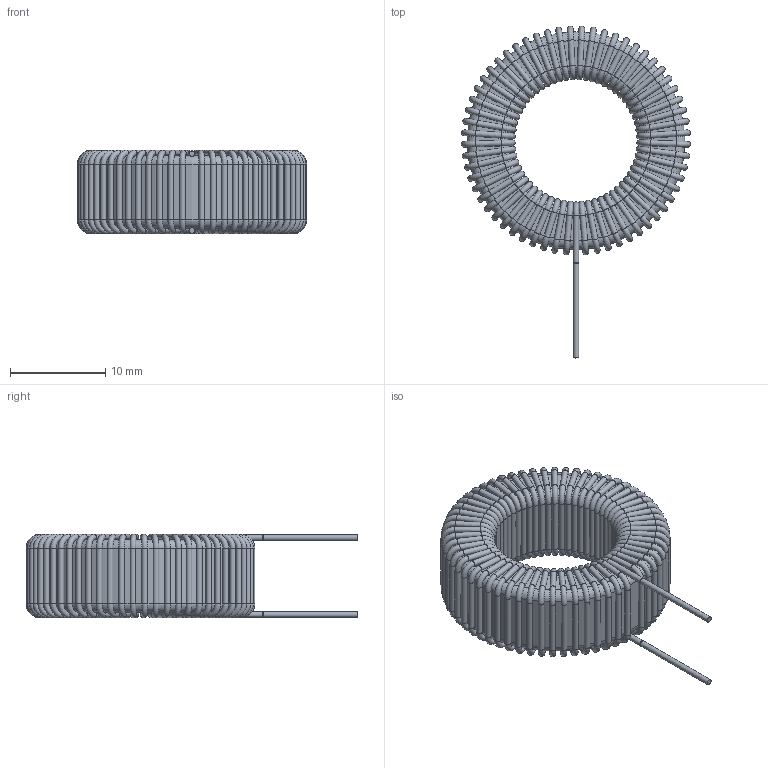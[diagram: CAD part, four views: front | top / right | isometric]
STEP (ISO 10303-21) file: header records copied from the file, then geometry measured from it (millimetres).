
FILE_DESCRIPTION(('FreeCAD Model'),'2;1');
FILE_NAME('Open CASCADE Shape Model','2024-09-04T09:02:09',(''),(''), 'Open CASCADE STEP processor 7.6','FreeCAD','Unknown');
FILE_SCHEMA(('AUTOMOTIVE_DESIGN { 1 0 10303 214 1 1 1 1 }'));
Length unit declared in the file: millimetre
Products named in the file (7): DTSM_23; Core; Wire; Zawartość; Leads; Tinned01; Tinned02
Assembly tree (65 placements, depth 3):
  DTSM_23
    Core
    Wire
      Zawartość  x60
    Leads
    Tinned01
    Tinned02
Bounding box: 24.06 x 34.82 x 8.78 mm (x, y, z)
Volume: 2345.1 mm3; surface area: 4147.2 mm2
Topology: 64 solids, 64 shells, 501 faces, 991 edges, 498 vertices
Faces by surface type: cylinder 247, torus 246, plane 8
Full cylindrical faces by diameter (mm): 0.6 x245, 13.97 x1, 22.86 x1
Entity records: 1314 total; most frequent: DIRECTION 273, CARTESIAN_POINT 168, AXIS2_PLACEMENT_3D 131, ORIENTED_EDGE 94, PRODUCT_DEFINITION_SHAPE 72, CONTEXT_DEPENDENT_SHAPE_REPRESENTATION 65, ITEM_DEFINED_TRANSFORMATION 65, NEXT_ASSEMBLY_USAGE_OCCURRENCE 65
